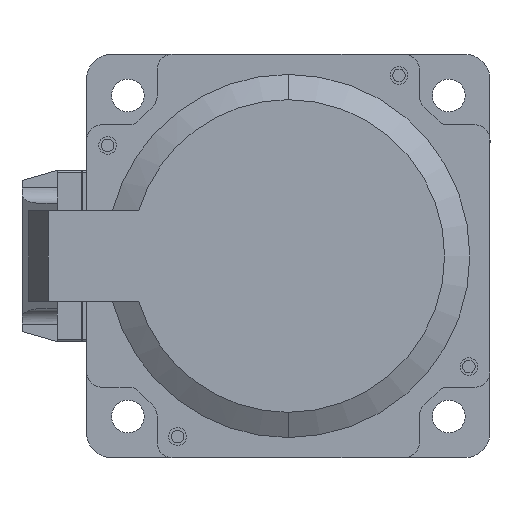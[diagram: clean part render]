
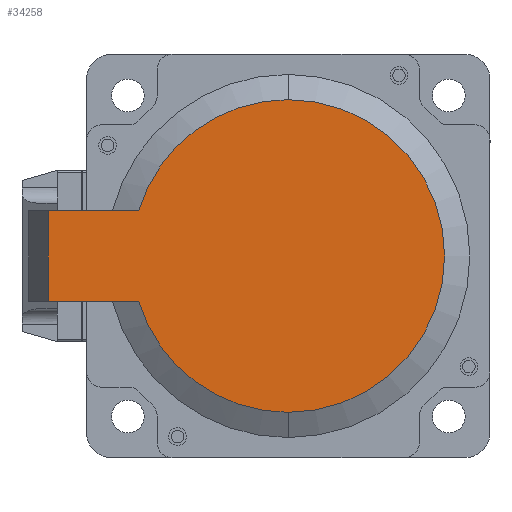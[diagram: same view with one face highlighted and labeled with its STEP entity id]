
A CAD part, left-side view. The second image highlights one B-rep face of the part: STEP entity #34258.
In plain terms, the highlighted planar face has unit normal (-1, 0, 0).
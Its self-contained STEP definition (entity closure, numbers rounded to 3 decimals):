
#1796 = AXIS2_PLACEMENT_3D ( 'NONE', #18417, #27001, #4786 ) ;
#4786 = DIRECTION ( 'NONE',  ( 0., 0., -1. ) ) ;
#5382 = ORIENTED_EDGE ( 'NONE', *, *, #46729, .T. ) ;
#7269 = VERTEX_POINT ( 'NONE', #41737 ) ;
#7386 = DIRECTION ( 'NONE',  ( 0., 1., 0. ) ) ;
#8512 = LINE ( 'NONE', #45195, #16868 ) ;
#10689 = FACE_OUTER_BOUND ( 'NONE', #39361, .T. ) ;
#11338 = DIRECTION ( 'NONE',  ( 0., 0., 1. ) ) ;
#12406 = DIRECTION ( 'NONE',  ( -1., 0., 0. ) ) ;
#12901 = VECTOR ( 'NONE', #11338, 1000. ) ;
#13473 = AXIS2_PLACEMENT_3D ( 'NONE', #43900, #21355, #37151 ) ;
#14151 = ORIENTED_EDGE ( 'NONE', *, *, #46630, .T. ) ;
#14654 = CARTESIAN_POINT ( 'NONE',  ( -56.934, 136.786, -9.459 ) ) ;
#15598 = DIRECTION ( 'NONE',  ( 0., 0., -1. ) ) ;
#16138 = CIRCLE ( 'NONE', #45178, 31. ) ;
#16579 = CARTESIAN_POINT ( 'NONE',  ( -56.934, 89.237, -0.459 ) ) ;
#16868 = VECTOR ( 'NONE', #7386, 1000. ) ;
#16954 = VERTEX_POINT ( 'NONE', #37570 ) ;
#18039 = PLANE ( 'NONE',  #13473 ) ;
#18417 = CARTESIAN_POINT ( 'NONE',  ( -56.934, 89.237, -0.459 ) ) ;
#21355 = DIRECTION ( 'NONE',  ( -1., 0., 0. ) ) ;
#22766 = CARTESIAN_POINT ( 'NONE',  ( -56.934, 136.786, 8.541 ) ) ;
#23290 = VECTOR ( 'NONE', #29542, 1000. ) ;
#23520 = CARTESIAN_POINT ( 'NONE',  ( -56.934, 89.237, -0.459 ) ) ;
#27001 = DIRECTION ( 'NONE',  ( -1., 0., 0. ) ) ;
#29542 = DIRECTION ( 'NONE',  ( 0., 1., 0. ) ) ;
#30849 = VERTEX_POINT ( 'NONE', #47747 ) ;
#30913 = CIRCLE ( 'NONE', #36416, 31. ) ;
#32108 = EDGE_CURVE ( 'NONE', #48768, #7269, #33337, .T. ) ;
#33337 = LINE ( 'NONE', #43850, #23290 ) ;
#34258 = ADVANCED_FACE ( 'NONE', ( #10689 ), #18039, .T. ) ;
#36416 = AXIS2_PLACEMENT_3D ( 'NONE', #23520, #45415, #15598 ) ;
#37151 = DIRECTION ( 'NONE',  ( 0., 0., -1. ) ) ;
#37227 = EDGE_CURVE ( 'NONE', #16954, #42189, #44210, .T. ) ;
#37396 = ORIENTED_EDGE ( 'NONE', *, *, #37227, .T. ) ;
#37570 = CARTESIAN_POINT ( 'NONE',  ( -56.934, 89.237, -31.459 ) ) ;
#38828 = DIRECTION ( 'NONE',  ( 0., 0., -1. ) ) ;
#39361 = EDGE_LOOP ( 'NONE', ( #44053, #5382, #37396, #14151, #45741, #46858 ) ) ;
#39929 = EDGE_CURVE ( 'NONE', #7269, #42794, #48898, .T. ) ;
#41737 = CARTESIAN_POINT ( 'NONE',  ( -56.934, 136.786, -9.459 ) ) ;
#42189 = VERTEX_POINT ( 'NONE', #48420 ) ;
#42794 = VERTEX_POINT ( 'NONE', #22766 ) ;
#43850 = CARTESIAN_POINT ( 'NONE',  ( -56.934, 136.786, -9.459 ) ) ;
#43900 = CARTESIAN_POINT ( 'NONE',  ( -56.934, 89.237, -31.459 ) ) ;
#44053 = ORIENTED_EDGE ( 'NONE', *, *, #32108, .F. ) ;
#44210 = CIRCLE ( 'NONE', #1796, 31. ) ;
#45178 = AXIS2_PLACEMENT_3D ( 'NONE', #16579, #12406, #38828 ) ;
#45195 = CARTESIAN_POINT ( 'NONE',  ( -56.934, 136.786, 8.541 ) ) ;
#45415 = DIRECTION ( 'NONE',  ( -1., 0., 0. ) ) ;
#45741 = ORIENTED_EDGE ( 'NONE', *, *, #47020, .T. ) ;
#46630 = EDGE_CURVE ( 'NONE', #42189, #30849, #30913, .T. ) ;
#46729 = EDGE_CURVE ( 'NONE', #48768, #16954, #16138, .T. ) ;
#46858 = ORIENTED_EDGE ( 'NONE', *, *, #39929, .F. ) ;
#47020 = EDGE_CURVE ( 'NONE', #30849, #42794, #8512, .T. ) ;
#47747 = CARTESIAN_POINT ( 'NONE',  ( -56.934, 118.902, 8.541 ) ) ;
#48254 = CARTESIAN_POINT ( 'NONE',  ( -56.934, 118.902, -9.459 ) ) ;
#48420 = CARTESIAN_POINT ( 'NONE',  ( -56.934, 89.237, 30.541 ) ) ;
#48768 = VERTEX_POINT ( 'NONE', #48254 ) ;
#48898 = LINE ( 'NONE', #14654, #12901 ) ;
